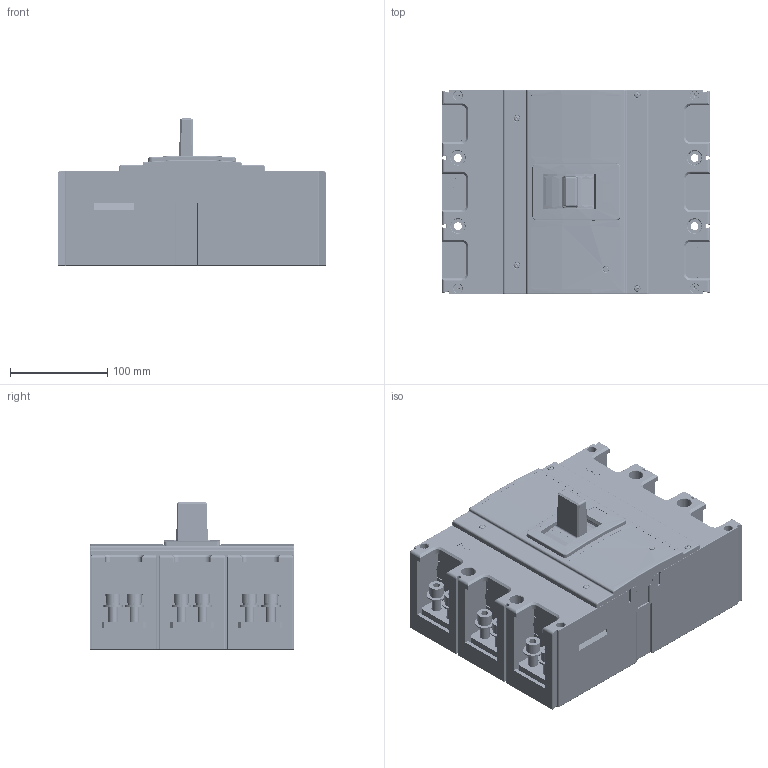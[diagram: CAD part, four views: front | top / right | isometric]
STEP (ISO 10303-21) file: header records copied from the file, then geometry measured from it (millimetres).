
FILE_DESCRIPTION(/* description */ (''),/* implementation_level */ '2;1');
FILE_NAME(/* name */ 'CMM-1250-3P-Drawing-3D.stp',/* time_stamp */ '2025-07-08T09:47:40-03:00',/* author */ ('guilh'),/* organization */ (''),/* preprocessor_version */ 'ST-DEVELOPER v20',/* originating_system */ 'Autodesk Inventor 2024',/* authorisation */ '');
FILE_SCHEMA (('AUTOMOTIVE_DESIGN { 1 0 10303 214 3 1 1 }'));
Products named in the file (114): CMM-1250-3P-Drawing-3D; YCM8-1250-3P-Drawing-3D.sldasm-Part-1; YCM8-1250-3P-Drawing-3D.sldasm-Part-2; YCM8-1250-3P-Drawing-3D.sldasm-Part-3; YCM8-1250-3P-Drawing-3D.sldasm-Part-4; YCM8-1250-3P-Drawing-3D.sldasm-Part-5; YCM8-1250-3P-Drawing-3D.sldasm-Part-6; YCM8-1250-3P-Drawing-3D.sldasm-Part-7; YCM8-1250-3P-Drawing-3D.sldasm-Part-8; YCM8-1250-3P-Drawing-3D.sldasm-Part-9; YCM8-1250-3P-Drawing-3D.sldasm-Part-10; YCM8-1250-3P-Drawing-3D.sldasm-Part-11; YCM8-1250-3P-Drawing-3D.sldasm-Part-12; YCM8-1250-3P-Drawing-3D.sldasm-Part-13; YCM8-1250-3P-Drawing-3D.sldasm-Part-14; YCM8-1250-3P-Drawing-3D.sldasm-Part-15; YCM8-1250-3P-Drawing-3D.sldasm-Part-16; YCM8-1250-3P-Drawing-3D.sldasm-Part-17; YCM8-1250-3P-Drawing-3D.sldasm-Part-18; YCM8-1250-3P-Drawing-3D.sldasm-Part-19; YCM8-1250-3P-Drawing-3D.sldasm-Part-20; YCM8-1250-3P-Drawing-3D.sldasm-Part-21; YCM8-1250-3P-Drawing-3D.sldasm-Part-22; YCM8-1250-3P-Drawing-3D.sldasm-Part-23; YCM8-1250-3P-Drawing-3D.sldasm-Part-24; YCM8-1250-3P-Drawing-3D.sldasm-Part-25; YCM8-1250-3P-Drawing-3D.sldasm-Part-26; YCM8-1250-3P-Drawing-3D.sldasm-Part-27; YCM8-1250-3P-Drawing-3D.sldasm-Part-28; YCM8-1250-3P-Drawing-3D.sldasm-Part-29; YCM8-1250-3P-Drawing-3D.sldasm-Part-30; YCM8-1250-3P-Drawing-3D.sldasm-Part-31; YCM8-1250-3P-Drawing-3D.sldasm-Part-32; YCM8-1250-3P-Drawing-3D.sldasm-Part-33; YCM8-1250-3P-Drawing-3D.sldasm-Part-34; YCM8-1250-3P-Drawing-3D.sldasm-Part-35; YCM8-1250-3P-Drawing-3D.sldasm-Part-36; YCM8-1250-3P-Drawing-3D.sldasm-Part-37; YCM8-1250-3P-Drawing-3D.sldasm-Part-38; YCM8-1250-3P-Drawing-3D.sldasm-Part-39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
Assembly tree (113 placements, depth 2):
  CMM-1250-3P-Drawing-3D
    YCM8-1250-3P-Drawing-3D.sldasm-Part-1
    YCM8-1250-3P-Drawing-3D.sldasm-Part-2
    YCM8-1250-3P-Drawing-3D.sldasm-Part-3
    YCM8-1250-3P-Drawing-3D.sldasm-Part-4
    YCM8-1250-3P-Drawing-3D.sldasm-Part-5
    YCM8-1250-3P-Drawing-3D.sldasm-Part-6
    YCM8-1250-3P-Drawing-3D.sldasm-Part-7
    YCM8-1250-3P-Drawing-3D.sldasm-Part-8
    YCM8-1250-3P-Drawing-3D.sldasm-Part-9
    YCM8-1250-3P-Drawing-3D.sldasm-Part-10
    YCM8-1250-3P-Drawing-3D.sldasm-Part-11
    YCM8-1250-3P-Drawing-3D.sldasm-Part-12
    YCM8-1250-3P-Drawing-3D.sldasm-Part-13
    YCM8-1250-3P-Drawing-3D.sldasm-Part-14
    YCM8-1250-3P-Drawing-3D.sldasm-Part-15
    YCM8-1250-3P-Drawing-3D.sldasm-Part-16
    YCM8-1250-3P-Drawing-3D.sldasm-Part-17
    YCM8-1250-3P-Drawing-3D.sldasm-Part-18
    YCM8-1250-3P-Drawing-3D.sldasm-Part-19
    YCM8-1250-3P-Drawing-3D.sldasm-Part-20
    YCM8-1250-3P-Drawing-3D.sldasm-Part-21
    YCM8-1250-3P-Drawing-3D.sldasm-Part-22
    YCM8-1250-3P-Drawing-3D.sldasm-Part-23
    YCM8-1250-3P-Drawing-3D.sldasm-Part-24
    YCM8-1250-3P-Drawing-3D.sldasm-Part-25
    YCM8-1250-3P-Drawing-3D.sldasm-Part-26
    YCM8-1250-3P-Drawing-3D.sldasm-Part-27
    YCM8-1250-3P-Drawing-3D.sldasm-Part-28
    YCM8-1250-3P-Drawing-3D.sldasm-Part-29
    YCM8-1250-3P-Drawing-3D.sldasm-Part-30
    YCM8-1250-3P-Drawing-3D.sldasm-Part-31
    YCM8-1250-3P-Drawing-3D.sldasm-Part-32
    YCM8-1250-3P-Drawing-3D.sldasm-Part-33
    YCM8-1250-3P-Drawing-3D.sldasm-Part-34
    YCM8-1250-3P-Drawing-3D.sldasm-Part-35
    YCM8-1250-3P-Drawing-3D.sldasm-Part-36
    YCM8-1250-3P-Drawing-3D.sldasm-Part-37
    YCM8-1250-3P-Drawing-3D.sldasm-Part-38
    YCM8-1250-3P-Drawing-3D.sldasm-Part-39
    YCM8-1250-3P-Drawing-3D.sldasm-Part-40
    YCM8-1250-3P-Drawing-3D.sldasm-Part-41
    YCM8-1250-3P-Drawing-3D.sldasm-Part-42
    YCM8-1250-3P-Drawing-3D.sldasm-Part-43
    YCM8-1250-3P-Drawing-3D.sldasm-Part-44
    YCM8-1250-3P-Drawing-3D.sldasm-Part-45
    YCM8-1250-3P-Drawing-3D.sldasm-Part-46
    YCM8-1250-3P-Drawing-3D.sldasm-Part-47
    YCM8-1250-3P-Drawing-3D.sldasm-Part-48
    YCM8-1250-3P-Drawing-3D.sldasm-Part-49
    YCM8-1250-3P-Drawing-3D.sldasm-Part-50
    YCM8-1250-3P-Drawing-3D.sldasm-Part-51
    YCM8-1250-3P-Drawing-3D.sldasm-Part-52
    YCM8-1250-3P-Drawing-3D.sldasm-Part-53
    YCM8-1250-3P-Drawing-3D.sldasm-Part-54
    YCM8-1250-3P-Drawing-3D.sldasm-Part-55
    YCM8-1250-3P-Drawing-3D.sldasm-Part-56
    YCM8-1250-3P-Drawing-3D.sldasm-Part-57
    YCM8-1250-3P-Drawing-3D.sldasm-Part-58
    YCM8-1250-3P-Drawing-3D.sldasm-Part-59
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Bounding box: 275.5 x 210 x 151.31 mm (x, y, z)
Volume: 1979181.9 mm3; surface area: 1013168.6 mm2
Topology: 113 solids, 114 shells, 6495 faces, 17667 edges, 11566 vertices
Faces by surface type: plane 3651, cylinder 2238, bspline 293, torus 178, cone 105, sphere 30
Full cylindrical faces by diameter (mm): 2.659 x4, 2.754 x80, 2.9 x1, 3 x4, 3.15 x4, 3.3 x18, 3.354 x80, 3.4 x8, 3.5 x9, 4 x16, 4.2 x289, 4.48 x5, 4.5 x6, 4.6 x8, 5 x237, 5.1 x3, 5.3 x12, 5.5 x45, 5.8 x2, 5.85 x8, 6 x2, 6.2 x7, 6.3 x1, 6.5 x4, 6.6 x1, 7 x55, 7.05 x1, 7.2 x3, 7.5 x40, 8 x4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
Entity records: 314948 total; most frequent: CARTESIAN_POINT 146312, ORIENTED_EDGE 35248, DIRECTION 32211, EDGE_CURVE 17624, VERTEX_POINT 11566, LINE 11453, VECTOR 11453, AXIS2_PLACEMENT_3D 10379
